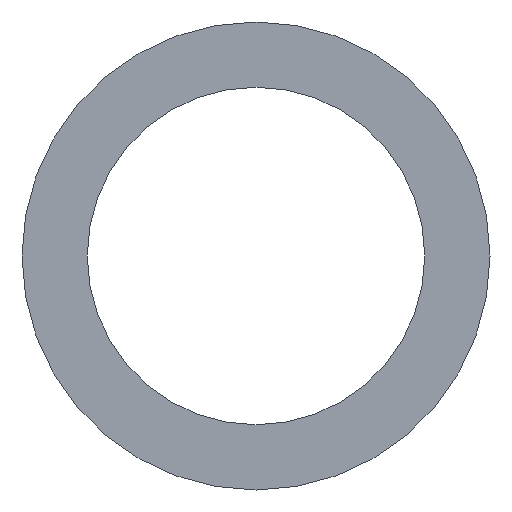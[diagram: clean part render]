
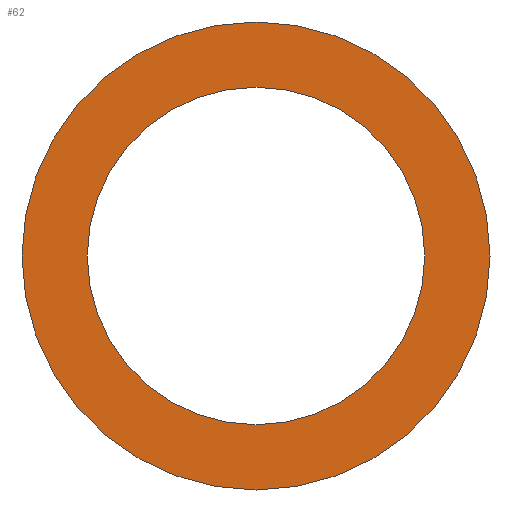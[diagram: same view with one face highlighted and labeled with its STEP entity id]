
A CAD part, front view. The second image highlights one B-rep face of the part: STEP entity #62.
In plain terms, the highlighted planar face has unit normal (0, -1, 0).
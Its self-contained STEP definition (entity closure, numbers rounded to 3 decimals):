
#20=PLANE('',#83);
#26=ORIENTED_EDGE('',*,*,#30,.T.);
#27=ORIENTED_EDGE('',*,*,#32,.F.);
#30=EDGE_CURVE('',#34,#34,#38,.T.);
#32=EDGE_CURVE('',#36,#36,#40,.T.);
#34=VERTEX_POINT('',#106);
#36=VERTEX_POINT('',#111);
#38=CIRCLE('',#78,328.5);
#40=CIRCLE('',#81,455.5);
#46=EDGE_LOOP('',(#26));
#47=EDGE_LOOP('',(#27));
#54=FACE_BOUND('',#46,.T.);
#55=FACE_BOUND('',#47,.T.);
#62=ADVANCED_FACE('',(#54,#55),#20,.F.);
#78=AXIS2_PLACEMENT_3D('',#105,#89,#90);
#81=AXIS2_PLACEMENT_3D('',#110,#95,#96);
#83=AXIS2_PLACEMENT_3D('',#114,#99,#100);
#89=DIRECTION('',(0.,1.,0.));
#90=DIRECTION('',(1.,0.,0.));
#95=DIRECTION('',(0.,1.,0.));
#96=DIRECTION('',(1.,0.,0.));
#99=DIRECTION('',(0.,1.,0.));
#100=DIRECTION('',(0.,0.,1.));
#105=CARTESIAN_POINT('',(0.,-1.5,0.));
#106=CARTESIAN_POINT('',(328.5,-1.5,0.));
#110=CARTESIAN_POINT('',(0.,-1.5,0.));
#111=CARTESIAN_POINT('',(455.5,-1.5,0.));
#114=CARTESIAN_POINT('',(0.,-1.5,0.));
